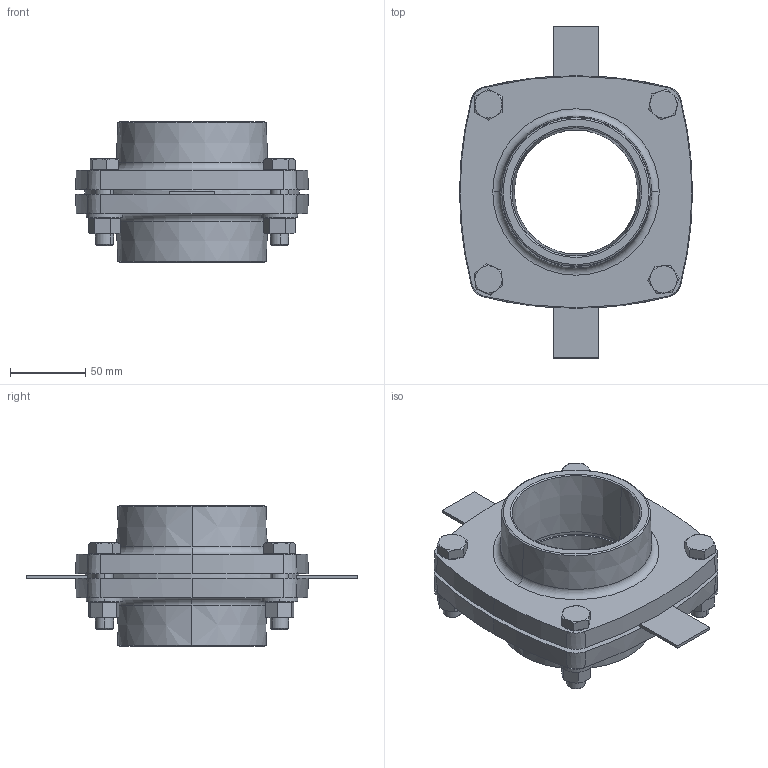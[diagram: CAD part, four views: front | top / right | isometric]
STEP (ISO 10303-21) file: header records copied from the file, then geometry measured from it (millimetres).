
FILE_DESCRIPTION (( 'STEP AP214' ), '1' );
FILE_NAME ('KP_F16-90FF.STEP', '2014-01-20T15:29:37', ( 'robinj' ), ( 'Microsoft' ), 'SwSTEP 2.0', 'SolidWorks 2014', '' );
FILE_SCHEMA (( 'AUTOMOTIVE_DESIGN' ));
Length unit declared in the file: millimetre
Products named in the file (1): KP_F16-90FF
Bounding box: 154.3 x 220 x 93 mm (x, y, z)
Volume: 632421.5 mm3; surface area: 121384.4 mm2
Topology: 1 solids, 1 shells, 351 faces, 776 edges, 456 vertices
Faces by surface type: plane 147, cone 124, cylinder 68, torus 12
Entity records: 11229 total; most frequent: CARTESIAN_POINT 2144, DIRECTION 1752, ORIENTED_EDGE 1552, EDGE_CURVE 776, AXIS2_PLACEMENT_3D 720, VERTEX_POINT 456, EDGE_LOOP 390, CIRCLE 368
